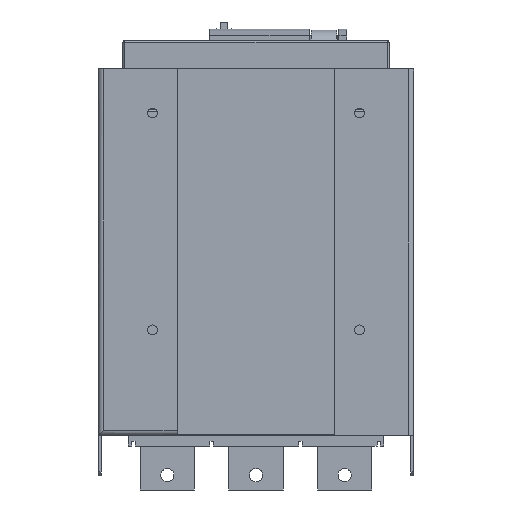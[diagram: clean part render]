
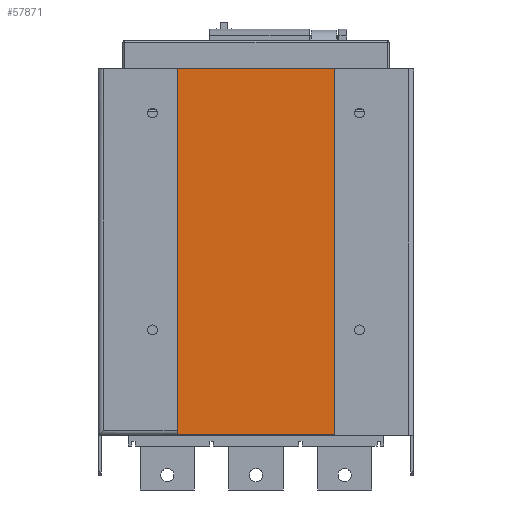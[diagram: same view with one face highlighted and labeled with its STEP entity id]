
A CAD part, front view. The second image highlights one B-rep face of the part: STEP entity #57871.
In plain terms, the highlighted planar face has unit normal (0, -1, 0).
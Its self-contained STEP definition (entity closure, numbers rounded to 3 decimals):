
#57811 = VERTEX_POINT ( 'NONE', #92397 ) ;
#57816 = EDGE_CURVE ( 'NONE', #57811, #67864, #92394, .T. ) ;
#57831 = EDGE_CURVE ( 'NONE', #67880, #57861, #92416, .T. ) ;
#57861 = VERTEX_POINT ( 'NONE', #92473 ) ;
#57871 = ADVANCED_FACE ( 'NONE', ( #92517 ), #92501, .F. ) ;
#57872 = EDGE_LOOP ( 'NONE', ( #57874, #57877, #57881, #57884 ) ) ;
#57874 = ORIENTED_EDGE ( 'NONE', *, *, #57816, .F. ) ;
#57877 = ORIENTED_EDGE ( 'NONE', *, *, #57878, .T. ) ;
#57878 = EDGE_CURVE ( 'NONE', #57811, #57861, #92548, .T. ) ;
#57881 = ORIENTED_EDGE ( 'NONE', *, *, #57831, .F. ) ;
#57884 = ORIENTED_EDGE ( 'NONE', *, *, #67878, .F. ) ;
#67864 = VERTEX_POINT ( 'NONE', #133213 ) ;
#67878 = EDGE_CURVE ( 'NONE', #67864, #67880, #133360, .T. ) ;
#67880 = VERTEX_POINT ( 'NONE', #133352 ) ;
#92391 = DIRECTION ( 'NONE',  ( 0., 0., 1. ) ) ;
#92392 = VECTOR ( 'NONE', #92391, 1000. ) ;
#92393 = CARTESIAN_POINT ( 'NONE',  ( -80., -227., 0. ) ) ;
#92394 = LINE ( 'NONE', #92393, #92392 ) ;
#92397 = CARTESIAN_POINT ( 'NONE',  ( -80., -227., 0.417 ) ) ;
#92413 = DIRECTION ( 'NONE',  ( 0., 0., -1. ) ) ;
#92414 = VECTOR ( 'NONE', #92413, 1000. ) ;
#92415 = CARTESIAN_POINT ( 'NONE',  ( 80., -227., 0. ) ) ;
#92416 = LINE ( 'NONE', #92415, #92414 ) ;
#92473 = CARTESIAN_POINT ( 'NONE',  ( 80., -227., 0.417 ) ) ;
#92496 = DIRECTION ( 'NONE',  ( 0., 0., 1. ) ) ;
#92497 = DIRECTION ( 'NONE',  ( 0., 1., 0. ) ) ;
#92498 = CARTESIAN_POINT ( 'NONE',  ( -80., -227., 372. ) ) ;
#92499 = AXIS2_PLACEMENT_3D ( 'NONE', #92498, #92497, #92496 ) ;
#92501 = PLANE ( 'NONE',  #92499 ) ;
#92517 = FACE_OUTER_BOUND ( 'NONE', #57872, .T. ) ;
#92545 = DIRECTION ( 'NONE',  ( 1., 0., 0. ) ) ;
#92546 = VECTOR ( 'NONE', #92545, 1000. ) ;
#92547 = CARTESIAN_POINT ( 'NONE',  ( -80., -227., 0.417 ) ) ;
#92548 = LINE ( 'NONE', #92547, #92546 ) ;
#133213 = CARTESIAN_POINT ( 'NONE',  ( -80., -227., 372. ) ) ;
#133352 = CARTESIAN_POINT ( 'NONE',  ( 80., -227., 372. ) ) ;
#133354 = DIRECTION ( 'NONE',  ( 1., 0., 0. ) ) ;
#133356 = VECTOR ( 'NONE', #133354, 1000. ) ;
#133359 = CARTESIAN_POINT ( 'NONE',  ( -80., -227., 372. ) ) ;
#133360 = LINE ( 'NONE', #133359, #133356 ) ;
